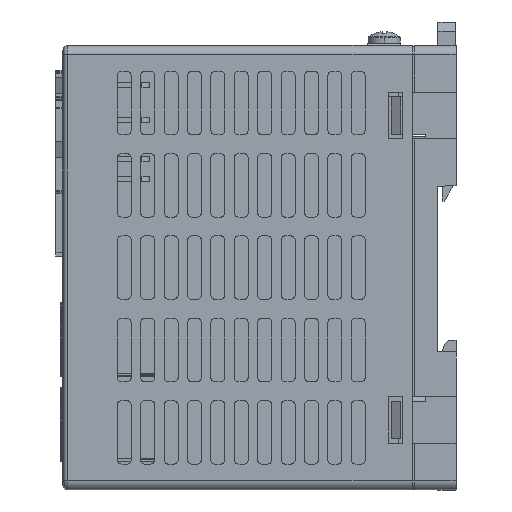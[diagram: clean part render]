
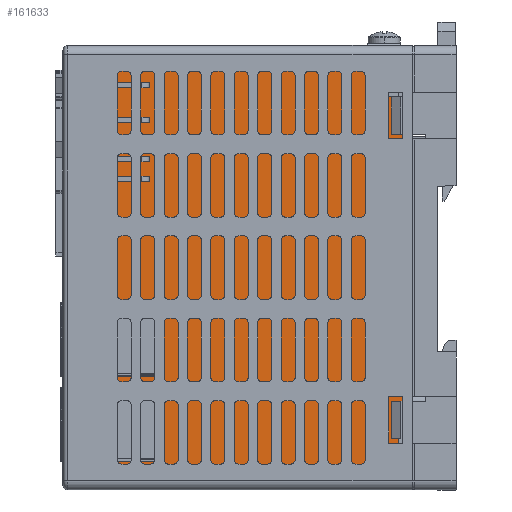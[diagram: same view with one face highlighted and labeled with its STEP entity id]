
A CAD part, left-side view. The second image highlights one B-rep face of the part: STEP entity #161633.
In plain terms, the highlighted planar face has unit normal (-1, 0, 0).
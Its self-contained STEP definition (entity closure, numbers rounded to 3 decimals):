
#754 = VECTOR ( 'NONE', #91567, 1000. ) ;
#10627 = VERTEX_POINT ( 'NONE', #52851 ) ;
#17988 = CARTESIAN_POINT ( 'NONE',  ( 0., 89., 0. ) ) ;
#19630 = PLANE ( 'NONE',  #82586 ) ;
#29162 = ORIENTED_EDGE ( 'NONE', *, *, #40029, .F. ) ;
#32654 = LINE ( 'NONE', #103769, #169150 ) ;
#32932 = EDGE_CURVE ( 'NONE', #126066, #49378, #35787, .T. ) ;
#35787 = LINE ( 'NONE', #170763, #754 ) ;
#40029 = EDGE_CURVE ( 'NONE', #10627, #126066, #103296, .T. ) ;
#42122 = EDGE_CURVE ( 'NONE', #49378, #166943, #110815, .T. ) ;
#46207 = DIRECTION ( 'NONE',  ( -1., 0., 0. ) ) ;
#49378 = VERTEX_POINT ( 'NONE', #79478 ) ;
#49871 = CARTESIAN_POINT ( 'NONE',  ( 0., 0., 0. ) ) ;
#52851 = CARTESIAN_POINT ( 'NONE',  ( 0., 0., 0. ) ) ;
#64457 = DIRECTION ( 'NONE',  ( 0., -1., 0. ) ) ;
#71768 = CARTESIAN_POINT ( 'NONE',  ( 0., 89., 0. ) ) ;
#76194 = CARTESIAN_POINT ( 'NONE',  ( 0., 0., -70. ) ) ;
#77051 = DIRECTION ( 'NONE',  ( 0., 0., -1. ) ) ;
#79478 = CARTESIAN_POINT ( 'NONE',  ( 0., 89., -70. ) ) ;
#82586 = AXIS2_PLACEMENT_3D ( 'NONE', #125382, #46207, #138694 ) ;
#91567 = DIRECTION ( 'NONE',  ( 0., 1., 0. ) ) ;
#103296 = LINE ( 'NONE', #49871, #169472 ) ;
#103769 = CARTESIAN_POINT ( 'NONE',  ( 0., 0., 0. ) ) ;
#110484 = DIRECTION ( 'NONE',  ( 0., 0., 1. ) ) ;
#110815 = LINE ( 'NONE', #17988, #145980 ) ;
#125382 = CARTESIAN_POINT ( 'NONE',  ( 0., 0., 0. ) ) ;
#126066 = VERTEX_POINT ( 'NONE', #76194 ) ;
#131164 = EDGE_CURVE ( 'NONE', #166943, #10627, #32654, .T. ) ;
#138694 = DIRECTION ( 'NONE',  ( 0., 0., 1. ) ) ;
#140274 = ORIENTED_EDGE ( 'NONE', *, *, #42122, .F. ) ;
#145980 = VECTOR ( 'NONE', #110484, 1000. ) ;
#155407 = EDGE_LOOP ( 'NONE', ( #168316, #140274, #164341, #29162 ) ) ;
#161633 = ADVANCED_FACE ( 'NONE', ( #164586 ), #19630, .T. ) ;
#164341 = ORIENTED_EDGE ( 'NONE', *, *, #32932, .F. ) ;
#164586 = FACE_OUTER_BOUND ( 'NONE', #155407, .T. ) ;
#166943 = VERTEX_POINT ( 'NONE', #71768 ) ;
#168316 = ORIENTED_EDGE ( 'NONE', *, *, #131164, .F. ) ;
#169150 = VECTOR ( 'NONE', #64457, 1000. ) ;
#169472 = VECTOR ( 'NONE', #77051, 1000. ) ;
#170763 = CARTESIAN_POINT ( 'NONE',  ( 0., 0., -70. ) ) ;
